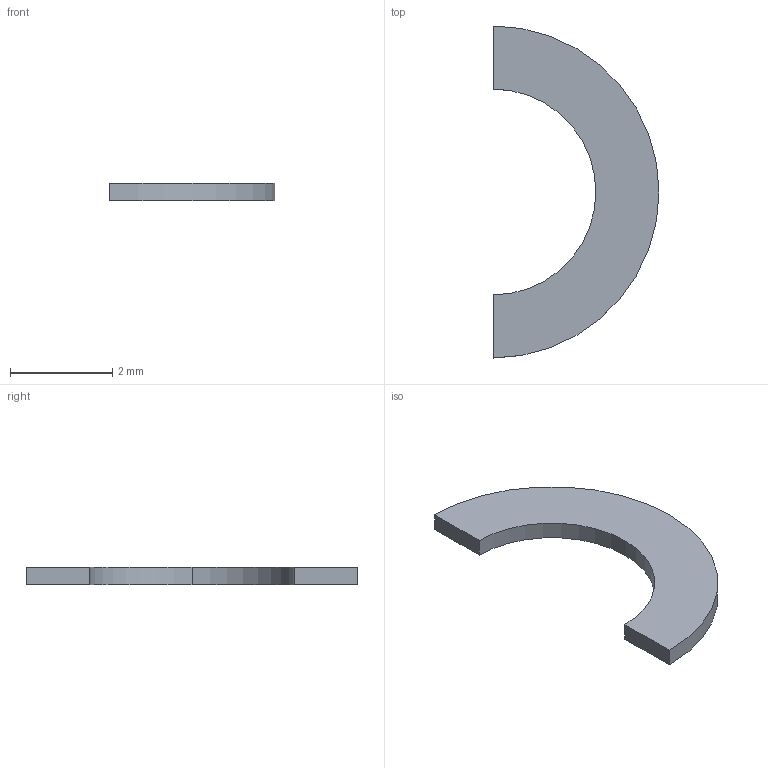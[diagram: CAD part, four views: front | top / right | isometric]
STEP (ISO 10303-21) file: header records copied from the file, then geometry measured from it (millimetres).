
FILE_DESCRIPTION(('Open CASCADE Model'),'2;1');
FILE_NAME('Open CASCADE Shape Model','2026-09-24T17:42:53',('Author'),( 'Open CASCADE'),'Open CASCADE STEP processor 7.8','Open CASCADE 7.8' ,'Unknown');
FILE_SCHEMA(('AUTOMOTIVE_DESIGN { 1 0 10303 214 1 1 1 1 }'));
Length unit declared in the file: millimetre
Products named in the file (1): Open CASCADE STEP translator 7.8 31
Bounding box: 3.25 x 6.5 x 0.35 mm (x, y, z)
Volume: 3.6 mm3; surface area: 27.1 mm2
Topology: 1 solids, 1 shells, 8 faces, 18 edges, 12 vertices
Faces by surface type: cylinder 4, plane 4
Entity records: 458 total; most frequent: CARTESIAN_POINT 91, DIRECTION 64, ORIENTED_EDGE 36, PCURVE 36, DEFINITIONAL_REPRESENTATION 36, LINE 22, VECTOR 22, EDGE_CURVE 18
